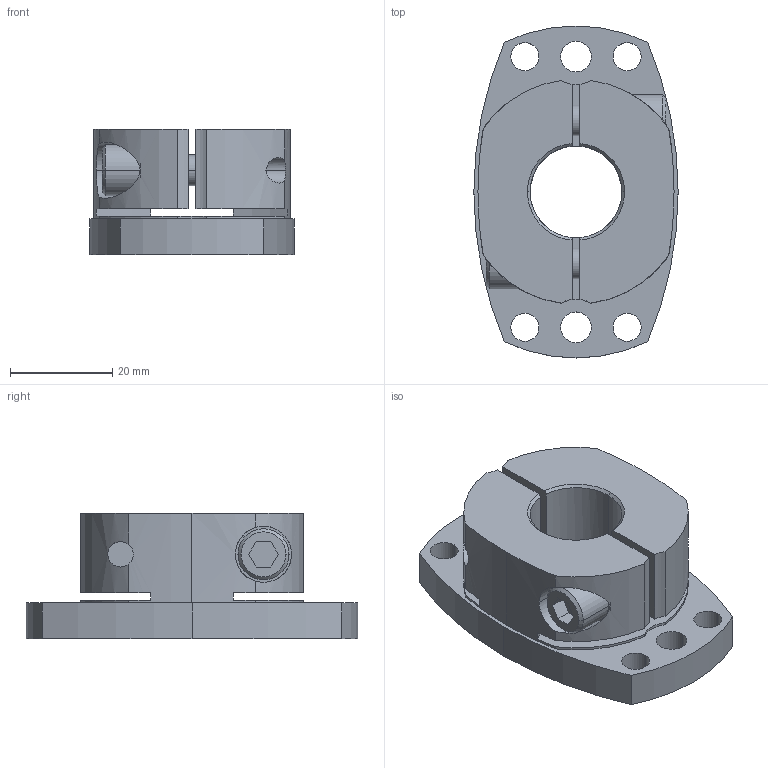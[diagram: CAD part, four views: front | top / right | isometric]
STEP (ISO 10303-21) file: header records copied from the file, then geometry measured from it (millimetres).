
FILE_DESCRIPTION((''),'2;1');
FILE_NAME('SHDB-65B-18.stp','2026-01-28T07:56:32',(''),(''),'AutoCAD STEP 2000i','AutoCAD 2000i',', , ');
FILE_SCHEMA(('CONFIG_CONTROL_DESIGN'));
Length unit declared in the file: millimetre
Products named in the file (2): SHDB-65B-16; 忣兜1
Assembly tree (1 placements, depth 2):
  SHDB-65B-16
    忣兜1
Bounding box: 40 x 65 x 24.5 mm (x, y, z)
Volume: 31008.5 mm3; surface area: 12597.4 mm2
Topology: 1 solids, 1 shells, 102 faces, 280 edges, 184 vertices
Faces by surface type: cylinder 58, plane 34, cone 10
Entity records: 3699 total; most frequent: CARTESIAN_POINT 872, DIRECTION 602, ORIENTED_EDGE 560, EDGE_CURVE 280, AXIS2_PLACEMENT_3D 238, VERTEX_POINT 184, CIRCLE 134, VECTOR 126
